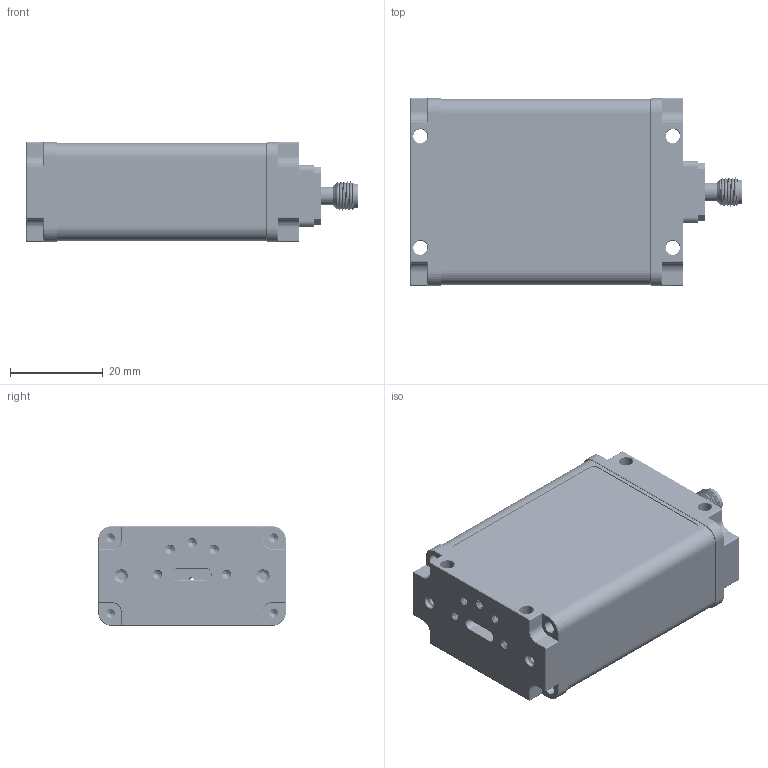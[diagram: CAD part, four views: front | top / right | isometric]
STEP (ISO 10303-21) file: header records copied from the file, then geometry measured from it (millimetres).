
FILE_DESCRIPTION(/* description */ (''),/* implementation_level */ '2;1');
FILE_NAME(/* name */ 'SFF SMA F.step',/* time_stamp */ '2024-09-23T09:49:08-06:00',/* author */ (''),/* organization */ (''),/* preprocessor_version */ 'ST-DEVELOPER v20',/* originating_system */ 'Autodesk Translation Framework v13.14.0.145',/* authorisation */ '');
FILE_SCHEMA (('AUTOMOTIVE_DESIGN { 1 0 10303 214 3 1 1 }'));
Products named in the file (5): LF assembly; SFF_LF_body_v24; SFF_bulkhead_usb_v24; SFF_LF_bulkhead_SupSMA; rosenberger-sma-4-hole-flange F
Assembly tree (4 placements, depth 2):
  LF assembly
    SFF_LF_body_v24
    SFF_bulkhead_usb_v24
    SFF_LF_bulkhead_SupSMA
    rosenberger-sma-4-hole-flange F
Bounding box: 71.78 x 40.64 x 21.59 mm (x, y, z)
Volume: 26458 mm3; surface area: 19170.5 mm2
Topology: 5 solids, 5 shells, 1183 faces, 3312 edges, 2149 vertices
Faces by surface type: cylinder 780, plane 249, cone 102, bspline 50, torus 2
Full cylindrical faces by diameter (mm): 0.9 x1, 1.27 x1, 1.524 x1, 1.587 x1, 1.588 x1, 1.623 x12, 1.778 x1, 1.783 x90, 2.074 x9, 2.184 x103, 2.6 x4, 2.642 x3, 2.692 x8, 3.048 x4, 3.937 x1, 4 x1, 4.5 x1, 5.34 x1, 5.433 x5
Entity records: 72060 total; most frequent: CARTESIAN_POINT 43737, ORIENTED_EDGE 6590, DIRECTION 4762, EDGE_CURVE 3295, VERTEX_POINT 2149, AXIS2_PLACEMENT_3D 1702, B_SPLINE_CURVE_WITH_KNOTS 1375, LINE 1358
